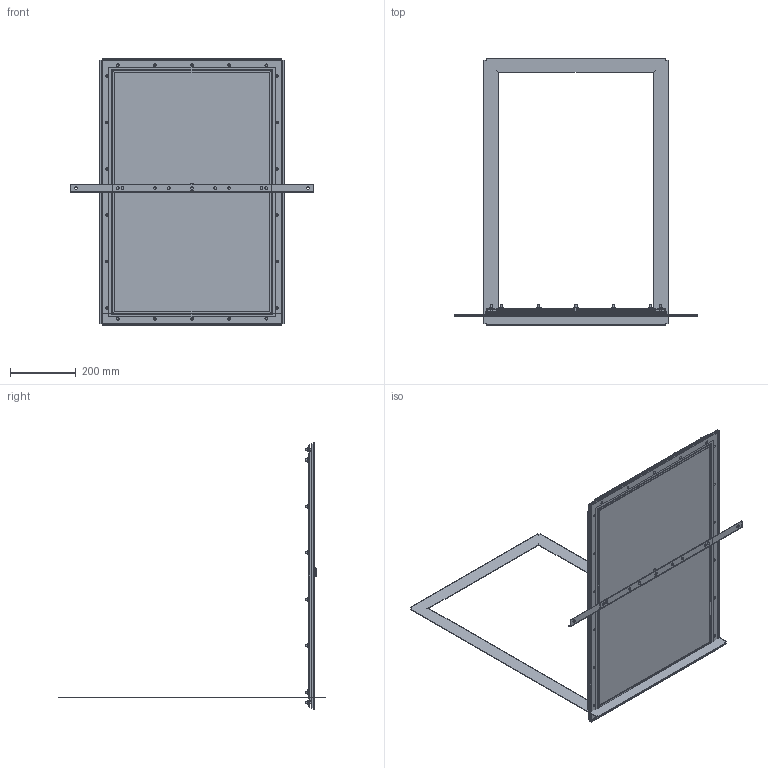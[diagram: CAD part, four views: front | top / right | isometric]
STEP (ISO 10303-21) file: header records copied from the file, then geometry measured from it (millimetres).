
FILE_DESCRIPTION( ( 'Unknown' ), '1' );
FILE_NAME( 'C:/temp/asm/1481WN42919.stp', 'Unknown', ( 'Unknown' ), ( 'Unknown' ), 'PSStep 10.0', 'Unknown', ' ' );
FILE_SCHEMA( ( 'automotive_design' ) );
Length unit declared in the file: millimetre
Products named in the file (41): Assem1; STD21879; STD21879-oa0; STD21879-oa1; STD21879-oa2; STD21879-oa3; STD21879-oa4; STD21879-oa5; STD21879-oa6; STD21879-oa7; STD21879-oa8; STD21879-oa9; STD21879-oa10; STD21879-oa11; STD21879-oa12; STD21879-oa13; STD21879-oa14; STD21879-oa15; STD21879-oa16; STD21879-oa17; STD21879-oa18; STD21879-oa19; STD21879-oa20; NTS165305; NTS165305-oa21; NTS165305-oa22; NTS165305-oa23; NTS165305-oa24; NTS165305-oa25; NTS165305-oa26; NTS165305-oa27; NTS165305-oa28; NTS165305-oa29; NTS165305-oa30; NTS165305-oa31; NTS165305-oa32; COM55610-8; COM55618-8; COM55611-9; COM55611-11
Bounding box: 736.6 x 813.43 x 813.43 mm (x, y, z)
Volume: 5934058.9 mm3; surface area: 2776704.7 mm2
Topology: 91 solids, 91 shells, 1262 faces, 2660 edges, 1624 vertices
Faces by surface type: plane 626, cone 420, cylinder 200, bspline 16
Full cylindrical faces by diameter (mm): 6.35 x79, 7.938 x44, 8.331 x33
Entity records: 14776 total; most frequent: CARTESIAN_POINT 3579, DIRECTION 2120, ORIENTED_EDGE 2004, EDGE_CURVE 1002, AXIS2_PLACEMENT_3D 881, EDGE_LOOP 680, VERTEX_POINT 668, FACE_OUTER_BOUND 589
